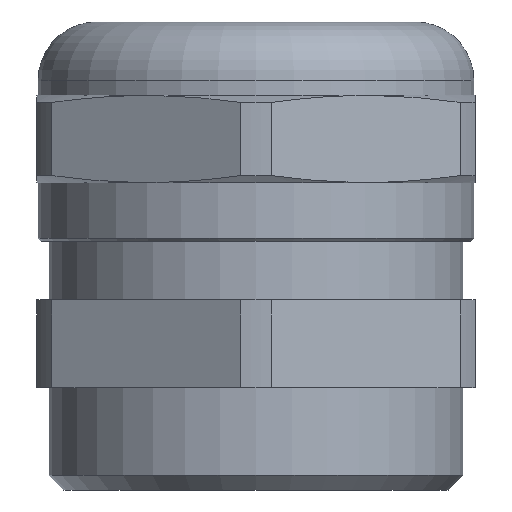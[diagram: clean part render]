
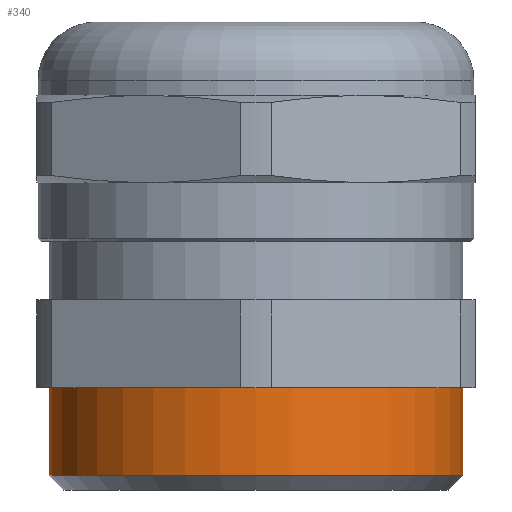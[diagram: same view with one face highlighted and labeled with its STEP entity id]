
A CAD part, front view. The second image highlights one B-rep face of the part: STEP entity #340.
In plain terms, the highlighted cylindrical face has radius 14.15 mm (diameter 28.3 mm), a partial arc.
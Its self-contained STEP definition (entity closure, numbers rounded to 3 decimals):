
#336 = ORIENTED_EDGE ( 'NONE', *, *, #485, .T. ) ;
#337 = ORIENTED_EDGE ( 'NONE', *, *, #355, .F. ) ;
#340 = ADVANCED_FACE ( 'NONE', ( #1572 ), #1571, .T. ) ;
#341 = EDGE_LOOP ( 'NONE', ( #344, #357, #336, #337 ) ) ;
#344 = ORIENTED_EDGE ( 'NONE', *, *, #487, .F. ) ;
#355 = EDGE_CURVE ( 'NONE', #442, #426, #1607, .T. ) ;
#357 = ORIENTED_EDGE ( 'NONE', *, *, #358, .T. ) ;
#358 = EDGE_CURVE ( 'NONE', #409, #408, #1667, .T. ) ;
#408 = VERTEX_POINT ( 'NONE', #1673 ) ;
#409 = VERTEX_POINT ( 'NONE', #1733 ) ;
#426 = VERTEX_POINT ( 'NONE', #1705 ) ;
#442 = VERTEX_POINT ( 'NONE', #1745 ) ;
#485 = EDGE_CURVE ( 'NONE', #408, #426, #1828, .T. ) ;
#487 = EDGE_CURVE ( 'NONE', #409, #442, #1885, .T. ) ;
#1571 = CYLINDRICAL_SURFACE ( 'NONE', #1631, 14.15 ) ;
#1572 = FACE_OUTER_BOUND ( 'NONE', #341, .T. ) ;
#1604 = DIRECTION ( 'NONE',  ( -1., 0., 0. ) ) ;
#1605 = DIRECTION ( 'NONE',  ( 0., 0., -1. ) ) ;
#1606 = AXIS2_PLACEMENT_3D ( 'NONE', #1613, #1605, #1604 ) ;
#1607 = CIRCLE ( 'NONE', #1606, 14.15 ) ;
#1613 = CARTESIAN_POINT ( 'NONE',  ( 0., 0., 1. ) ) ;
#1628 = DIRECTION ( 'NONE',  ( -1., 0., 0. ) ) ;
#1629 = DIRECTION ( 'NONE',  ( 0., 0., -1. ) ) ;
#1630 = CARTESIAN_POINT ( 'NONE',  ( 0., 0., 0. ) ) ;
#1631 = AXIS2_PLACEMENT_3D ( 'NONE', #1630, #1629, #1628 ) ;
#1663 = DIRECTION ( 'NONE',  ( -1., 0., 0. ) ) ;
#1664 = DIRECTION ( 'NONE',  ( 0., 0., -1. ) ) ;
#1665 = CARTESIAN_POINT ( 'NONE',  ( 0., 0., 7. ) ) ;
#1666 = AXIS2_PLACEMENT_3D ( 'NONE', #1665, #1664, #1663 ) ;
#1667 = CIRCLE ( 'NONE', #1666, 14.15 ) ;
#1673 = CARTESIAN_POINT ( 'NONE',  ( -14.15, 0., 7. ) ) ;
#1705 = CARTESIAN_POINT ( 'NONE',  ( -14.15, 0., 1. ) ) ;
#1733 = CARTESIAN_POINT ( 'NONE',  ( 14.15, 0., 7. ) ) ;
#1745 = CARTESIAN_POINT ( 'NONE',  ( 14.15, 0., 1. ) ) ;
#1825 = DIRECTION ( 'NONE',  ( 0., 0., -1. ) ) ;
#1826 = VECTOR ( 'NONE', #1825, 1000. ) ;
#1827 = CARTESIAN_POINT ( 'NONE',  ( -14.15, 0., 0. ) ) ;
#1828 = LINE ( 'NONE', #1827, #1826 ) ;
#1882 = DIRECTION ( 'NONE',  ( 0., 0., -1. ) ) ;
#1883 = VECTOR ( 'NONE', #1882, 1000. ) ;
#1884 = CARTESIAN_POINT ( 'NONE',  ( 14.15, 0., 0. ) ) ;
#1885 = LINE ( 'NONE', #1884, #1883 ) ;
